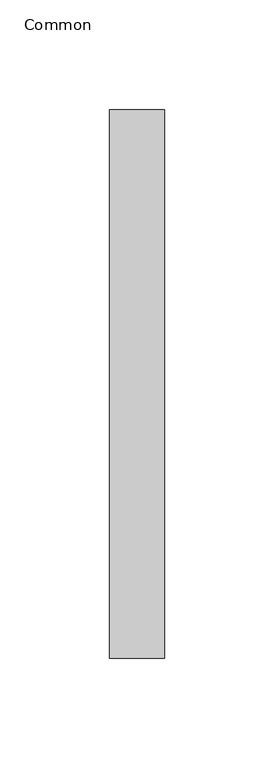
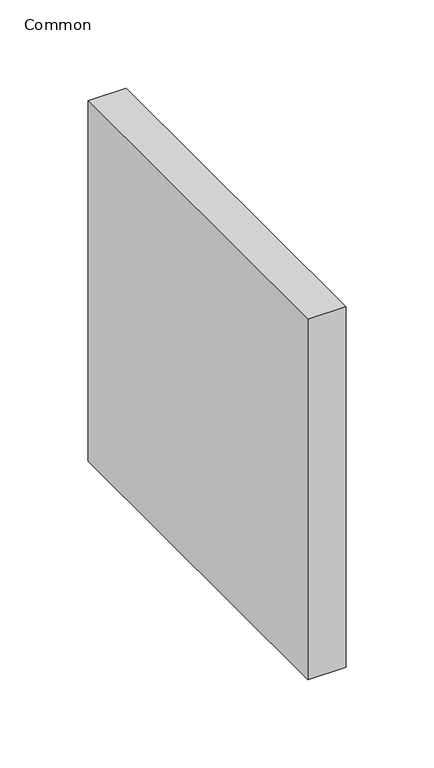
"""IFC4 building model written with IfcOpenShell, lengths in millimetres: duct fitting geometry, 081_角型エンドキャップ : Common."""

from ifc_helpers import new_model, si_unit, frame, origin, place, context, project, spatial, polyline, outline, extrude, source, transform, mapped, element, save


def common_0120e422(model_context):
    return source(origin(), model_context, "Body", "SweptSolid", [
        extrude(outline(polyline([(0.0, -125.0), (0.0, 125.0), (25.0, 125.0), (25.0, -125.0), (0.0, -125.0)])), frame((0.0, 0.0, -125.0), z_axis=(0.0, 0.0, 1.0), x_axis=(1.0, 0.0, 0.0)), (0.0, 0.0, 1.0), 250.0),
    ])


if __name__ == "__main__":
    model = new_model("IFC4")
    model_context = context("Model", 3, world=origin())
    ifc_project = project(units=[si_unit("LENGTHUNIT", "METRE", prefix="MILLI")], contexts=[model_context])
    site = spatial("IfcSite", under=ifc_project)
    building = spatial("IfcBuilding", under=site)
    placement = place(None, origin())
    common_shape = common_0120e422(model_context)
    element("IfcDuctFitting", 1, ObjectType="081_角型エンドキャップ : Common", at=placement, inside=building, context=model_context, shape_type="MappedRepresentation", body=[
        mapped(common_shape, transform((0.0, 0.0, 0.0), x_axis=(1.0, 0.0, 0.0), y_axis=(0.0, 1.0, 0.0), z_axis=(0.0, 0.0, 1.0))),
    ])
    save(model, "model.ifc")
